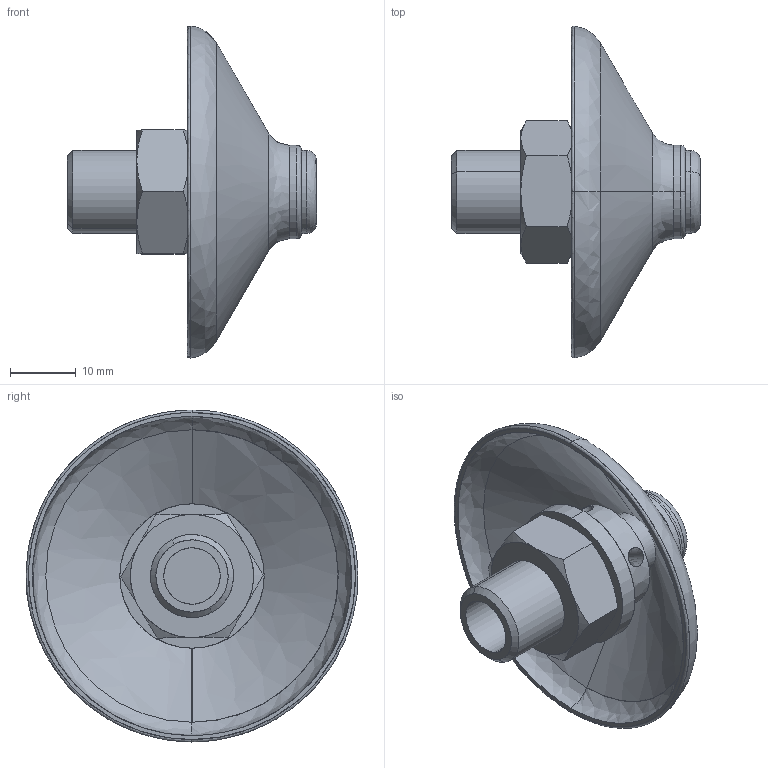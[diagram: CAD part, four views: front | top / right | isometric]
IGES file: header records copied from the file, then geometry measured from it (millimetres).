
Start section: SolidWorks IGES file using analytic representation for surfaces
Global section: file name: V:\WORK\08133\HP 寸法図\blaster\EF4804_defeature.IGS,15; native system: HSolidWorks 2018; preprocessor: SolidWorks 2018; author: n-udagawa; date: 230119.162433; units: millimetre
Bounding box: 37.98 x 50.63 x 50.63 mm (x, y, z)
Surface area: 8318.9 mm2 (no closed solid volume)
Topology: 0 solids, 0 shells, 78 faces, 1737 edges, 1900 vertices
Faces by surface type: revolution 51, bspline 27
